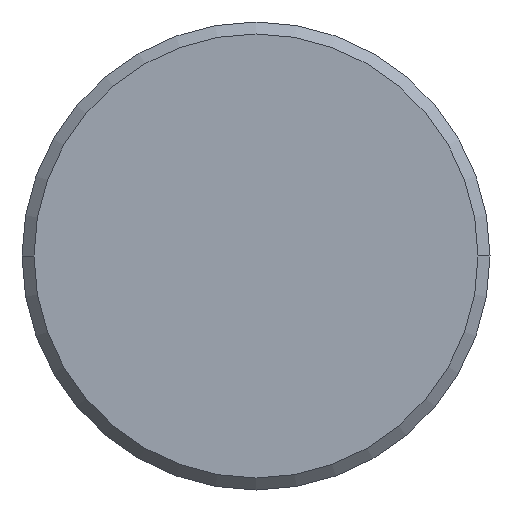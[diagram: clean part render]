
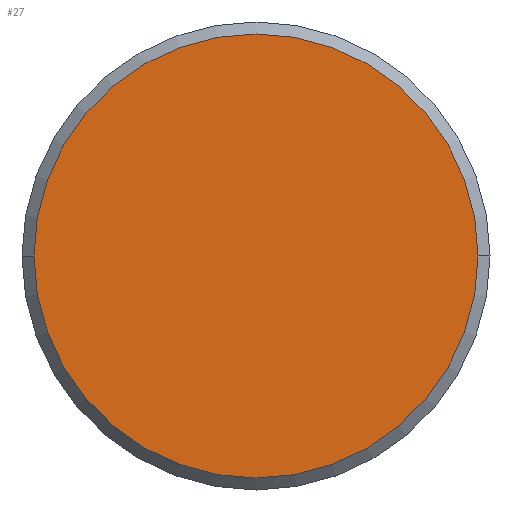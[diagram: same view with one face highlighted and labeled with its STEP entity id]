
A CAD part, left-side view. The second image highlights one B-rep face of the part: STEP entity #27.
In plain terms, the highlighted planar face has unit normal (-1, 0, 0).
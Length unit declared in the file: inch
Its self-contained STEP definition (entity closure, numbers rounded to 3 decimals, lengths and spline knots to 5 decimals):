
#7 = EDGE_CURVE ( 'NONE', #237, #315, #270, .T. ) ;
#10 = DIRECTION ( 'NONE',  ( -1., 0., 0. ) ) ;
#22 = EDGE_LOOP ( 'NONE', ( #210, #124 ) ) ;
#27 = ADVANCED_FACE ( 'NONE', ( #191 ), #133, .T. ) ;
#31 = DIRECTION ( 'NONE',  ( 0., -1., 0. ) ) ;
#32 = AXIS2_PLACEMENT_3D ( 'NONE', #250, #10, #71 ) ;
#71 = DIRECTION ( 'NONE',  ( 0., -1., 0. ) ) ;
#75 = AXIS2_PLACEMENT_3D ( 'NONE', #295, #174, #31 ) ;
#99 = AXIS2_PLACEMENT_3D ( 'NONE', #164, #255, #365 ) ;
#112 = CARTESIAN_POINT ( 'NONE',  ( 0., -0.07413, 0. ) ) ;
#124 = ORIENTED_EDGE ( 'NONE', *, *, #328, .T. ) ;
#133 = PLANE ( 'NONE',  #32 ) ;
#138 = CARTESIAN_POINT ( 'NONE',  ( 0., 0.07413, 0. ) ) ;
#164 = CARTESIAN_POINT ( 'NONE',  ( 0., 0., 0. ) ) ;
#174 = DIRECTION ( 'NONE',  ( -1., 0., 0. ) ) ;
#191 = FACE_OUTER_BOUND ( 'NONE', #22, .T. ) ;
#210 = ORIENTED_EDGE ( 'NONE', *, *, #7, .T. ) ;
#237 = VERTEX_POINT ( 'NONE', #138 ) ;
#250 = CARTESIAN_POINT ( 'NONE',  ( 0., 0., 0. ) ) ;
#255 = DIRECTION ( 'NONE',  ( -1., 0., 0. ) ) ;
#270 = CIRCLE ( 'NONE', #99, 0.07413 ) ;
#295 = CARTESIAN_POINT ( 'NONE',  ( 0., 0., 0. ) ) ;
#315 = VERTEX_POINT ( 'NONE', #112 ) ;
#328 = EDGE_CURVE ( 'NONE', #315, #237, #331, .T. ) ;
#331 = CIRCLE ( 'NONE', #75, 0.07413 ) ;
#365 = DIRECTION ( 'NONE',  ( 0., -1., 0. ) ) ;
